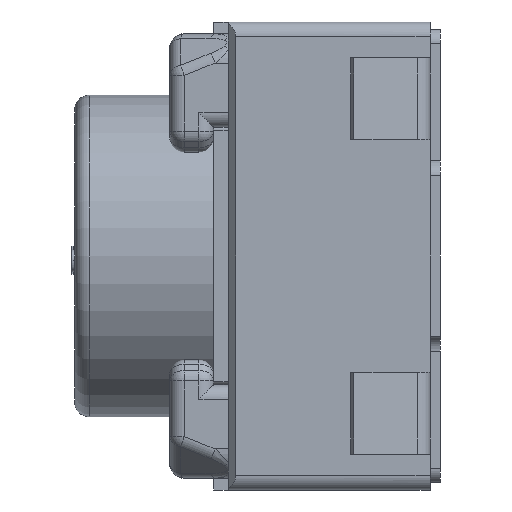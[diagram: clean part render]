
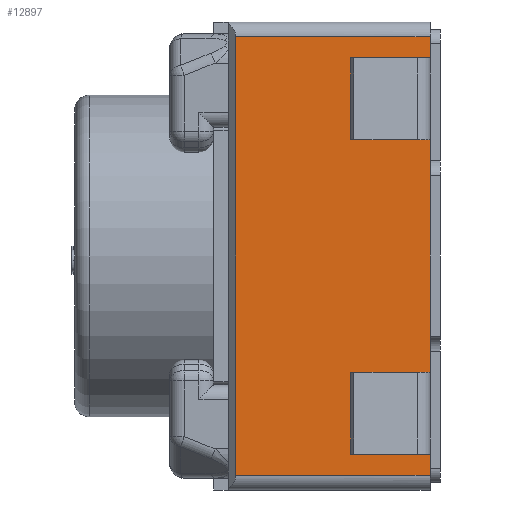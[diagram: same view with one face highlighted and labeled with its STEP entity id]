
A CAD part, left-side view. The second image highlights one B-rep face of the part: STEP entity #12897.
In plain terms, the highlighted planar face has unit normal (-1, 0, 0).
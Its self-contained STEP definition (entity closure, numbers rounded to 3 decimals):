
#347 = VERTEX_POINT ( 'NONE', #12417 ) ;
#694 = EDGE_CURVE ( 'NONE', #8920, #6457, #17133, .T. ) ;
#735 = EDGE_CURVE ( 'NONE', #347, #21086, #7749, .T. ) ;
#777 = LINE ( 'NONE', #18811, #21171 ) ;
#998 = CARTESIAN_POINT ( 'NONE',  ( -2.1, 1.4, -1.5 ) ) ;
#1280 = CARTESIAN_POINT ( 'NONE',  ( -2.1, 1.45, -1.5 ) ) ;
#1333 = LINE ( 'NONE', #7254, #10252 ) ;
#1921 = VERTEX_POINT ( 'NONE', #2057 ) ;
#2057 = CARTESIAN_POINT ( 'NONE',  ( -2.1, 0.07, -1.355 ) ) ;
#2100 = CARTESIAN_POINT ( 'NONE',  ( -2.1, 1.4, 1.5 ) ) ;
#2418 = CARTESIAN_POINT ( 'NONE',  ( -2.1, 1.4, 0. ) ) ;
#2582 = VERTEX_POINT ( 'NONE', #17800 ) ;
#2987 = CARTESIAN_POINT ( 'NONE',  ( -2.1, 0.17, -0.1 ) ) ;
#3202 = LINE ( 'NONE', #1280, #17443 ) ;
#3231 = VERTEX_POINT ( 'NONE', #11265 ) ;
#3354 = EDGE_CURVE ( 'NONE', #1921, #21086, #8569, .T. ) ;
#3844 = CARTESIAN_POINT ( 'NONE',  ( -2.1, 0.17, -1.355 ) ) ;
#4291 = ORIENTED_EDGE ( 'NONE', *, *, #10957, .F. ) ;
#4457 = EDGE_CURVE ( 'NONE', #16529, #6974, #18809, .T. ) ;
#5915 = VECTOR ( 'NONE', #14853, 1000. ) ;
#6006 = ORIENTED_EDGE ( 'NONE', *, *, #9152, .T. ) ;
#6249 = EDGE_CURVE ( 'NONE', #6457, #16529, #9300, .T. ) ;
#6457 = VERTEX_POINT ( 'NONE', #2100 ) ;
#6561 = LINE ( 'NONE', #8481, #5915 ) ;
#6771 = ORIENTED_EDGE ( 'NONE', *, *, #11100, .F. ) ;
#6974 = VERTEX_POINT ( 'NONE', #13092 ) ;
#7156 = VECTOR ( 'NONE', #20985, 1000. ) ;
#7172 = DIRECTION ( 'NONE',  ( 0., 1., 0. ) ) ;
#7190 = CARTESIAN_POINT ( 'NONE',  ( -2.1, 0.07, 1.5 ) ) ;
#7254 = CARTESIAN_POINT ( 'NONE',  ( -2.1, 0.07, 0. ) ) ;
#7384 = PLANE ( 'NONE',  #8873 ) ;
#7514 = CARTESIAN_POINT ( 'NONE',  ( -2.1, 0.07, 0. ) ) ;
#7749 = LINE ( 'NONE', #14653, #7156 ) ;
#8481 = CARTESIAN_POINT ( 'NONE',  ( -2.1, 0.07, 0. ) ) ;
#8569 = LINE ( 'NONE', #3844, #11981 ) ;
#8694 = VERTEX_POINT ( 'NONE', #10116 ) ;
#8810 = DIRECTION ( 'NONE',  ( 0., 1., 0. ) ) ;
#8873 = AXIS2_PLACEMENT_3D ( 'NONE', #15476, #17289, #14270 ) ;
#8907 = FACE_OUTER_BOUND ( 'NONE', #9681, .T. ) ;
#8920 = VERTEX_POINT ( 'NONE', #998 ) ;
#8987 = DIRECTION ( 'NONE',  ( 0., -1., 0. ) ) ;
#9027 = DIRECTION ( 'NONE',  ( 0., 0., -1. ) ) ;
#9152 = EDGE_CURVE ( 'NONE', #17348, #6974, #10807, .T. ) ;
#9300 = LINE ( 'NONE', #12427, #12990 ) ;
#9535 = DIRECTION ( 'NONE',  ( 0., 0., -1. ) ) ;
#9681 = EDGE_LOOP ( 'NONE', ( #6771, #6006, #17382, #13775, #11619, #12460, #4291, #13239, #18195, #14931, #14405, #9727 ) ) ;
#9727 = ORIENTED_EDGE ( 'NONE', *, *, #17381, .T. ) ;
#10116 = CARTESIAN_POINT ( 'NONE',  ( -2.1, 0.07, -1.5 ) ) ;
#10237 = CARTESIAN_POINT ( 'NONE',  ( -2.1, 0.17, -0.795 ) ) ;
#10252 = VECTOR ( 'NONE', #14444, 1000. ) ;
#10807 = LINE ( 'NONE', #15263, #16713 ) ;
#10957 = EDGE_CURVE ( 'NONE', #1921, #8694, #6561, .T. ) ;
#11100 = EDGE_CURVE ( 'NONE', #17348, #18967, #17708, .T. ) ;
#11265 = CARTESIAN_POINT ( 'NONE',  ( -2.1, 0.07, 0.795 ) ) ;
#11619 = ORIENTED_EDGE ( 'NONE', *, *, #694, .F. ) ;
#11981 = VECTOR ( 'NONE', #7172, 1000. ) ;
#12417 = CARTESIAN_POINT ( 'NONE',  ( -2.1, 0.17, -0.795 ) ) ;
#12427 = CARTESIAN_POINT ( 'NONE',  ( -2.1, 1.45, 1.5 ) ) ;
#12460 = ORIENTED_EDGE ( 'NONE', *, *, #13970, .T. ) ;
#12604 = DIRECTION ( 'NONE',  ( 0., 0., 1. ) ) ;
#12897 = ADVANCED_FACE ( 'NONE', ( #8907 ), #7384, .F. ) ;
#12990 = VECTOR ( 'NONE', #8987, 1000. ) ;
#13092 = CARTESIAN_POINT ( 'NONE',  ( -2.1, 0.07, 1.355 ) ) ;
#13178 = EDGE_CURVE ( 'NONE', #3231, #2582, #1333, .T. ) ;
#13239 = ORIENTED_EDGE ( 'NONE', *, *, #3354, .T. ) ;
#13692 = LINE ( 'NONE', #10237, #15281 ) ;
#13775 = ORIENTED_EDGE ( 'NONE', *, *, #6249, .F. ) ;
#13970 = EDGE_CURVE ( 'NONE', #8920, #8694, #3202, .T. ) ;
#14108 = CARTESIAN_POINT ( 'NONE',  ( -2.1, 0.17, -1.355 ) ) ;
#14270 = DIRECTION ( 'NONE',  ( 0., 1., 0. ) ) ;
#14405 = ORIENTED_EDGE ( 'NONE', *, *, #13178, .F. ) ;
#14444 = DIRECTION ( 'NONE',  ( 0., 0., -1. ) ) ;
#14653 = CARTESIAN_POINT ( 'NONE',  ( -2.1, 0.17, -0.844 ) ) ;
#14821 = DIRECTION ( 'NONE',  ( 0., -1., 0. ) ) ;
#14853 = DIRECTION ( 'NONE',  ( 0., 0., -1. ) ) ;
#14931 = ORIENTED_EDGE ( 'NONE', *, *, #14949, .T. ) ;
#14949 = EDGE_CURVE ( 'NONE', #347, #2582, #13692, .T. ) ;
#15263 = CARTESIAN_POINT ( 'NONE',  ( -2.1, 0.17, 1.355 ) ) ;
#15281 = VECTOR ( 'NONE', #16812, 1000. ) ;
#15476 = CARTESIAN_POINT ( 'NONE',  ( -2.1, 1.45, 0. ) ) ;
#16252 = VECTOR ( 'NONE', #9535, 1000. ) ;
#16529 = VERTEX_POINT ( 'NONE', #7190 ) ;
#16713 = VECTOR ( 'NONE', #18379, 1000. ) ;
#16812 = DIRECTION ( 'NONE',  ( 0., -1., 0. ) ) ;
#17122 = VECTOR ( 'NONE', #9027, 1000. ) ;
#17133 = LINE ( 'NONE', #2418, #19294 ) ;
#17289 = DIRECTION ( 'NONE',  ( 1., 0., 0. ) ) ;
#17348 = VERTEX_POINT ( 'NONE', #20417 ) ;
#17381 = EDGE_CURVE ( 'NONE', #3231, #18967, #777, .T. ) ;
#17382 = ORIENTED_EDGE ( 'NONE', *, *, #4457, .F. ) ;
#17443 = VECTOR ( 'NONE', #14821, 1000. ) ;
#17708 = LINE ( 'NONE', #2987, #16252 ) ;
#17800 = CARTESIAN_POINT ( 'NONE',  ( -2.1, 0.07, -0.795 ) ) ;
#18195 = ORIENTED_EDGE ( 'NONE', *, *, #735, .F. ) ;
#18379 = DIRECTION ( 'NONE',  ( 0., -1., 0. ) ) ;
#18809 = LINE ( 'NONE', #7514, #17122 ) ;
#18811 = CARTESIAN_POINT ( 'NONE',  ( -2.1, 0.17, 0.795 ) ) ;
#18967 = VERTEX_POINT ( 'NONE', #20874 ) ;
#19294 = VECTOR ( 'NONE', #12604, 1000. ) ;
#20417 = CARTESIAN_POINT ( 'NONE',  ( -2.1, 0.17, 1.355 ) ) ;
#20874 = CARTESIAN_POINT ( 'NONE',  ( -2.1, 0.17, 0.795 ) ) ;
#20985 = DIRECTION ( 'NONE',  ( 0., 0., -1. ) ) ;
#21086 = VERTEX_POINT ( 'NONE', #14108 ) ;
#21171 = VECTOR ( 'NONE', #8810, 1000. ) ;
